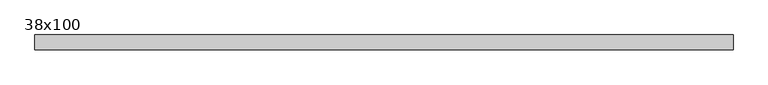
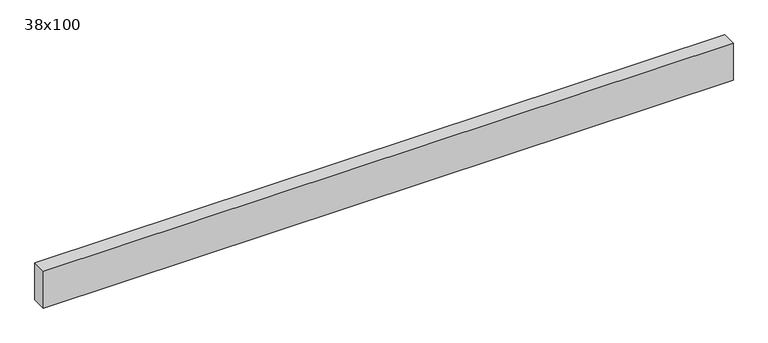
"""IFC4 building model written with IfcOpenShell, lengths in millimetres: beam geometry, Poutre - Bois de construction de dimensions courantes : 38x100."""

from ifc_helpers import new_model, si_unit, frame, origin, place, context, project, spatial, polyline, outline, extrude, source, transform, mapped, element, save


def beam_38x100_84eabd67(model_context):
    return source(origin(), model_context, "Body", "SweptSolid", [
        extrude(outline(polyline([(859.0, 19.05), (859.0, -19.05), (-914.0, -19.05), (-914.0, 19.05), (859.0, 19.05)])), frame((0.0, 0.0, -50.0), z_axis=(0.0, 0.0, 1.0), x_axis=(1.0, 0.0, 0.0)), (0.0, 0.0, 1.0), 100.0),
    ])


if __name__ == "__main__":
    model = new_model("IFC4")
    model_context = context("Model", 3, world=origin())
    ifc_project = project(units=[si_unit("LENGTHUNIT", "METRE", prefix="MILLI")], contexts=[model_context])
    site = spatial("IfcSite", under=ifc_project)
    building = spatial("IfcBuilding", under=site)
    placement = place(None, origin())
    beam_38x100_shape = beam_38x100_84eabd67(model_context)
    element("IfcBeam", 1, ObjectType="Poutre - Bois de construction de dimensions courantes : 38x100", at=placement, inside=building, context=model_context, shape_type="MappedRepresentation", body=[
        mapped(beam_38x100_shape, transform((0.0, 0.0, 0.0), x_axis=(1.0, 0.0, 0.0), y_axis=(0.0, 1.0, 0.0), z_axis=(0.0, 0.0, 1.0))),
    ])
    save(model, "model.ifc")
